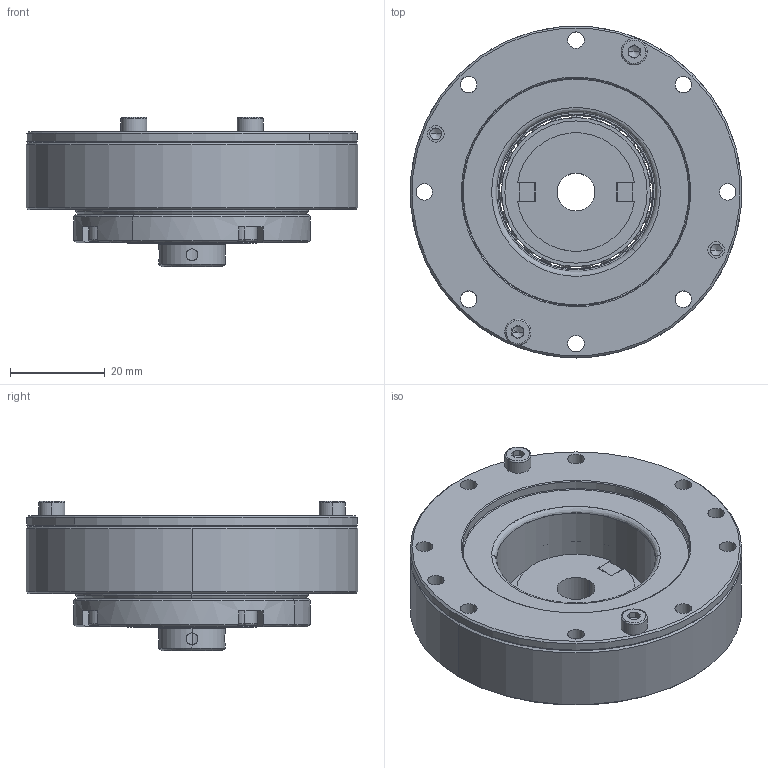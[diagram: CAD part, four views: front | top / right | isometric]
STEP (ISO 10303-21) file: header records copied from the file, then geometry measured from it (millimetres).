
FILE_DESCRIPTION (( 'STEP AP203' ), '1' );
FILE_NAME ('LHSG-14-XXX-C-II-S0.step', '2025-01-07T06:46:48', ( '' ), ( '' ), 'SwSTEP 2.0', 'SolidWorks 2023', '' );
FILE_SCHEMA (( 'CONFIG_CONTROL_DESIGN' ));
Length unit declared in the file: metre
Products named in the file (1): LHSG-14-XXX-C-II-S0
Bounding box: 70 x 70 x 31.5 mm (x, y, z)
Volume: 53164.5 mm3; surface area: 49870.4 mm2
Topology: 43 solids, 43 shells, 794 faces, 1971 edges, 1172 vertices
Faces by surface type: cylinder 323, plane 246, cone 115, bspline 110
Entity records: 25782 total; most frequent: CARTESIAN_POINT 7239, DIRECTION 4112, ORIENTED_EDGE 3658, EDGE_CURVE 1829, AXIS2_PLACEMENT_3D 1678, VERTEX_POINT 1172, CIRCLE 993, EDGE_LOOP 949
